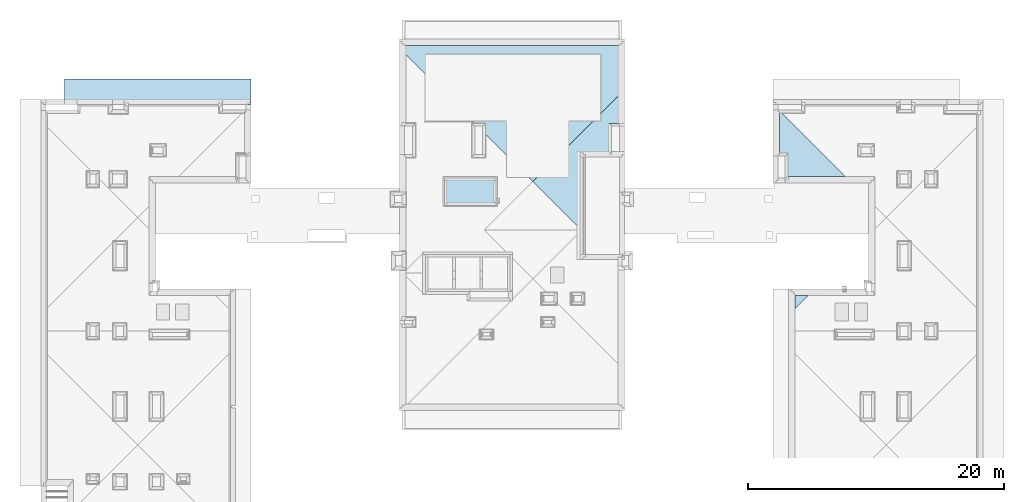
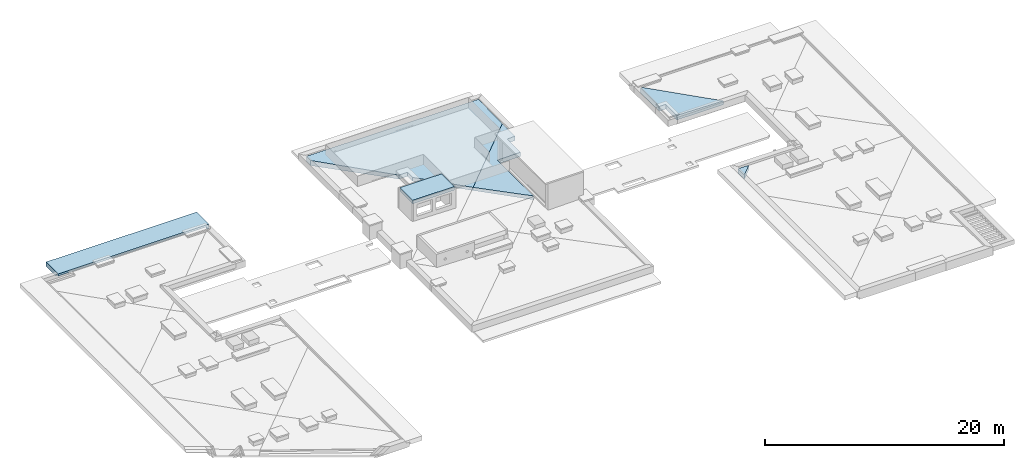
# One storey, part 3 of 16: 6 slabs.
"""IFC2X3 building model written with IfcOpenShell, lengths in millimetres."""

from ifc_helpers import new_model, entity, si_unit, converted_unit, derived_unit, money_unit, direction, frame, origin_with_axes, place, context, subcontext, project, spatial, faceted_brep, material, material_list, type_object, element, save


model = new_model("IFC2X3")

# Units and contexts
model_context = context("Model", 3, precision=0.01, world=origin_with_axes(), true_north=direction((0.34421633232, 0.938890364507)))
body_context = subcontext(model_context, "Body", "Model", "MODEL_VIEW")
ifc_project = project(units=[si_unit("LENGTHUNIT", "METRE", prefix="MILLI"), si_unit("AREAUNIT", "SQUARE_METRE"), si_unit("VOLUMEUNIT", "CUBIC_METRE"), converted_unit("PLANEANGLEUNIT", "DEGREE", entity("IfcPlaneAngleMeasure", 0.0174532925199), si_unit("PLANEANGLEUNIT", "RADIAN"), dimensions=[0, 0, 0, 0, 0, 0, 0]), si_unit("SOLIDANGLEUNIT", "STERADIAN"), money_unit("USD"), converted_unit("TIMEUNIT", "Year", entity("IfcTimeMeasure", 31556926.0), si_unit("TIMEUNIT", "SECOND"), dimensions=[0, 0, 1, 0, 0, 0, 0]), si_unit("MASSUNIT", "GRAM", prefix="KILO"), si_unit("THERMODYNAMICTEMPERATUREUNIT", "DEGREE_CELSIUS"), si_unit("LUMINOUSINTENSITYUNIT", "LUMEN"), si_unit("ENERGYUNIT", "JOULE", prefix="MEGA"), derived_unit("THERMALCONDUCTANCEUNIT", [(si_unit("POWERUNIT", "WATT"), 1), (si_unit("LENGTHUNIT", "METRE"), -1), (si_unit("THERMODYNAMICTEMPERATUREUNIT", "KELVIN"), -1)]), derived_unit("SPECIFICHEATCAPACITYUNIT", [(si_unit("ENERGYUNIT", "JOULE"), 1), (si_unit("MASSUNIT", "GRAM", prefix="KILO"), -1), (si_unit("THERMODYNAMICTEMPERATUREUNIT", "KELVIN"), -1)]), derived_unit("MASSDENSITYUNIT", [(si_unit("MASSUNIT", "GRAM", prefix="KILO"), 1), (si_unit("VOLUMEUNIT", "CUBIC_METRE"), -1)])], contexts=[model_context])

# Site, building, storey
site_placement = place(None, origin_with_axes())
site = spatial("IfcSite", under=ifc_project, at=site_placement, Name="USTRONIE MORSKIE", CompositionType="ELEMENT")
building_placement = place(site_placement, origin_with_axes())
building = spatial("IfcBuilding", under=site, at=building_placement, Name="Budynek", CompositionType="ELEMENT")
storey_placement = place(building_placement, frame((0.0, 0.0, 19000.0), z_axis=(0.0, 0.0, 1.0), x_axis=(1.0, 0.0, 0.0)))
storey = spatial("IfcBuildingStorey", under=building, at=storey_placement, Name="DACH", CompositionType="ELEMENT", Elevation=19000.0)

# Slabs
ifc_material_1 = material(Name="Okładzina kamienna")
ifc_material_2 = material(Name="Żwir")
ifc_material_3 = material(Name="Membrana hydroizolacyjna")
ifc_material_4 = material(Name="Termoizolacja PIR")
ifc_material_list_1 = material_list([ifc_material_1, ifc_material_2, ifc_material_3, ifc_material_4, ifc_material_4])
slab_type_1 = type_object("IfcSlabType", Name="509-PS STROP DACH BALAST 560", PredefinedType="ROOF")
slab_1_placement = place(storey_placement, frame((417097.921014, 729691.199019, -400.0), z_axis=(0.0, 0.0, 1.0), x_axis=(0.0, -1.0, 0.0)))
element("IfcSlab", 1, at=slab_1_placement, inside=storey, type_object=slab_type_1, material=ifc_material_list_1, Name="DA3", PredefinedType="ROOF", context=body_context, shape_type="Brep", body=[
    faceted_brep([(-20.0, -7140.00009505, 702.911990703), (1030.00002094, -7140.00009505, 702.911990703), (-20.0, -6090.0000741, 681.911990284), (-20.0000000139, -7140.00009506, 682.907991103), (1030.00002094, -7140.00009506, 682.907991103), (-20.0000000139, -6090.00007411, 661.907990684)], [[[0, 1, 2]], [[0, 3, 4, 1]], [[1, 4, 5, 2]], [[2, 5, 3, 0]], [[3, 5, 4]]]),
    faceted_brep([(-20.0000000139, -6090.00007411, 661.907990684), (-20.0000000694, -6090.00007416, 581.891992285), (-20.0000000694, -7140.00009512, 602.891992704), (-20.0000000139, -7140.00009506, 682.907991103), (1030.00002094, -7140.00009506, 682.907991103), (1030.00002093, -7140.00009512, 602.891992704)], [[[0, 1, 2, 3]], [[4, 5, 1, 0]], [[2, 1, 5]], [[3, 2, 5, 4]], [[3, 4, 0]]]),
    faceted_brep([(-20.0000000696, -6090.00007416, 581.891992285), (-20.0000000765, -6090.00007417, 571.889992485), (-20.0000000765, -7140.00009512, 592.889992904), (-20.0000000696, -7140.00009512, 602.891992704), (1030.00002093, -7140.00009512, 602.891992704), (1030.00002092, -7140.00009512, 592.889992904)], [[[0, 1, 2, 3]], [[4, 5, 1, 0]], [[2, 1, 5]], [[3, 2, 5, 4]], [[3, 4, 0]]]),
    faceted_brep([(-20.0000000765, -6090.00007417, 571.889992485), (-20.0000001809, -6090.00007425, 421.859995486), (-20.0000001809, -7140.00009523, 442.859995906), (-20.0000000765, -7140.00009512, 592.889992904), (1030.00002092, -7140.00009512, 592.889992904), (1030.0000209, -7140.00009523, 442.859995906)], [[[0, 1, 2, 3]], [[4, 5, 1, 0]], [[2, 1, 5]], [[3, 2, 5, 4]], [[3, 4, 0]]]),
    faceted_brep([(1030.00002086, -7140.00009536, 245.0), (-20.0000003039, -6090.00007436, 245.0), (-20.0000001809, -6090.00007425, 421.859995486), (1030.0000209, -7140.00009523, 442.859995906), (-20.0000003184, -7140.00009536, 245.0), (-20.0000001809, -7140.00009523, 442.859995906)], [[[0, 1, 2, 3]], [[4, 1, 0]], [[1, 4, 5, 2]], [[2, 5, 3]], [[4, 0, 3, 5]]]),
])
slab_2_placement = place(storey_placement, frame((417097.921055, 740261.199341, -400.0), z_axis=(0.0, 0.0, 1.0), x_axis=(-5.50528511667e-09, -1.0, 0.0)))
element("IfcSlab", 2, at=slab_2_placement, inside=storey, type_object=slab_type_1, material=ifc_material_list_1, Name="DA3", PredefinedType="ROOF", context=body_context, shape_type="Brep", body=[
    faceted_brep([(-3709.99956888, -8340.00001403, 726.911989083), (-589.980123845, -8340.00016241, 726.91199205), (-589.980083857, -7700.00014914, 714.111991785), (1270.00034738, -7700.00000337, 714.11198887), (1270.00032255, -3189.99760422, 623.911940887), (-3709.99956982, -8169.99755142, 723.511939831), (-3709.9995689, -8340.00001403, 706.907989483), (-589.980123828, -8340.00016243, 706.907992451), (-589.980083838, -7700.00014915, 694.107992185), (1270.00034738, -7700.00000337, 694.10798927), (1270.00032254, -3189.99760422, 603.907941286), (-3709.99956983, -8169.99755142, 703.507940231)], [[[0, 1, 2, 3, 4, 5]], [[0, 6, 7, 1]], [[1, 7, 8, 2]], [[2, 8, 9, 3]], [[3, 9, 10, 4]], [[4, 10, 11, 5]], [[5, 11, 6, 0]], [[6, 11, 10, 9, 8, 7]]]),
    faceted_brep([(-3709.99956983, -8169.99755142, 703.507940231), (-3709.9995699, -8169.99755146, 623.491941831), (-3709.99956896, -8340.000014, 626.891991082), (-3709.9995689, -8340.00001403, 706.907989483), (1270.00032254, -3189.99760422, 603.907941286), (1270.00032248, -3189.99760421, 523.891942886), (1270.00034736, -7700.00000334, 614.091990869), (-589.980083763, -7700.00014918, 614.091993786), (-589.980123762, -8340.00016248, 626.891994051), (-589.980123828, -8340.00016243, 706.907992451), (-589.980083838, -7700.00014915, 694.107992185), (1270.00034738, -7700.00000337, 694.10798927)], [[[0, 1, 2, 3]], [[4, 5, 1, 0]], [[2, 1, 5, 6, 7, 8]], [[3, 2, 8, 9]], [[3, 9, 10, 11, 4, 0]], [[11, 6, 5, 4]], [[10, 7, 6, 11]], [[9, 8, 7, 10]]]),
    faceted_brep([(-3709.9995699, -8169.99755146, 623.491941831), (-3709.99956991, -8169.99755146, 613.489942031), (-3709.99956897, -8340.00001399, 616.889991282), (-3709.99956896, -8340.000014, 626.891991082), (1270.00032248, -3189.99760421, 523.891942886), (1270.00032247, -3189.99760421, 513.889943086), (1270.00034736, -7700.00000334, 604.089991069), (-589.980083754, -7700.00014919, 604.089993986), (-589.980123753, -8340.00016249, 616.889994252), (-589.980123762, -8340.00016248, 626.891994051), (-589.980083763, -7700.00014918, 614.091993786), (1270.00034736, -7700.00000334, 614.091990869)], [[[0, 1, 2, 3]], [[4, 5, 1, 0]], [[2, 1, 5, 6, 7, 8]], [[3, 2, 8, 9]], [[3, 9, 10, 11, 4, 0]], [[11, 6, 5, 4]], [[10, 7, 6, 11]], [[9, 8, 7, 10]]]),
    faceted_brep([(-3709.99956991, -8169.99755146, 613.489942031), (-3709.99957003, -8169.99755152, 463.459945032), (-3709.99956909, -8340.00001393, 466.85999428), (-3709.99956897, -8340.00001399, 616.889991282), (1270.00032247, -3189.99760421, 513.889943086), (1270.00032236, -3189.99760421, 363.859946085), (1270.00034734, -7700.00000328, 454.059994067), (-589.980083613, -7700.00014925, 454.059996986), (-589.980123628, -8340.00016259, 466.859997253), (-589.980123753, -8340.00016249, 616.889994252), (-589.980083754, -7700.00014919, 604.089993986), (1270.00034736, -7700.00000334, 604.089991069)], [[[0, 1, 2, 3]], [[4, 5, 1, 0]], [[2, 1, 5, 6, 7, 8]], [[3, 2, 8, 9]], [[3, 9, 10, 11, 4, 0]], [[11, 6, 5, 4]], [[10, 7, 6, 11]], [[9, 8, 7, 10]]]),
    faceted_brep([(1270.00034731, -7700.00000321, 245.0), (1270.00032228, -3189.9976042, 245.0), (1270.00032236, -3189.99760421, 363.859946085), (1270.00034734, -7700.00000328, 454.059994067), (-3709.9995702, -8169.9975516, 245.0), (-589.980083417, -7700.00014933, 245.0), (-589.980123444, -8340.00016275, 245.0), (-3709.99956927, -8340.00001385, 245.0), (-3709.99957003, -8169.99755152, 463.459945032), (-3709.99956909, -8340.00001393, 466.85999428), (-589.980123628, -8340.00016259, 466.859997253), (-589.980083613, -7700.00014925, 454.059996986)], [[[0, 1, 2, 3]], [[4, 1, 0, 5, 6, 7]], [[1, 4, 8, 2]], [[8, 9, 10, 11, 3, 2]], [[5, 0, 3, 11]], [[6, 5, 11, 10]], [[7, 6, 10, 9]], [[4, 7, 9, 8]]]),
])
slab_3_placement = place(storey_placement, frame((396207.920919, 738611.198919, -400.0), z_axis=(0.0, 0.0, 1.0), x_axis=(-1.0, 0.0, 0.0)))
element("IfcSlab", 3, at=slab_3_placement, inside=storey, type_object=slab_type_1, material=ifc_material_list_1, Name="DA3", PredefinedType="ROOF", context=body_context, shape_type="Brep", body=[
    faceted_brep([(16710.0, -10660.0001542, 773.311991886), (16710.0, -9959.99979179, 759.311984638), (11300.0002384, -4550.00003021, 651.111989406), (10469.9965926, -4550.00003021, 651.111989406), (10469.9965926, -3719.99638439, 634.51191649), (6750.00011444, 9.37683353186e-05, 560.111986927), (70.0000000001, -6679.99977272, 693.711984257), (70.0000000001, -10660.0001542, 773.311991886), (16710.0, -10660.0001542, 753.307992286), (16710.0, -9959.9997918, 739.307985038), (11300.0002384, -4550.00003019, 631.107989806), (10469.9965926, -4550.00003019, 631.107989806), (10469.9965926, -3719.99638439, 614.50791689), (6750.00011446, 9.37570803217e-05, 540.107987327), (69.9999999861, -6679.99977271, 673.707984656), (69.9999999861, -10660.0001542, 753.307992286)], [[[0, 1, 2, 3, 4, 5, 6, 7]], [[0, 8, 9, 1]], [[1, 9, 10, 2]], [[2, 10, 11, 3]], [[3, 11, 12, 4]], [[4, 12, 13, 5]], [[5, 13, 14, 6]], [[6, 14, 15, 7]], [[7, 15, 8, 0]], [[8, 15, 14, 13, 12, 11, 10, 9]]]),
    faceted_brep([(69.9999999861, -10660.0001542, 753.307992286), (69.9999999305, -10660.0001543, 673.291993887), (16710.0, -10660.0001543, 673.291993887), (16710.0, -10660.0001542, 753.307992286), (69.9999999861, -6679.99977271, 673.707984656), (69.9999999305, -6679.99977269, 593.691986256), (6750.00011452, 9.37118329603e-05, 460.091988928), (10469.9965925, -3719.99638442, 534.49191849), (10469.9965925, -4550.00003013, 551.091991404), (11300.0002384, -4550.00003013, 551.091991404), (16710.0, -9959.99979183, 659.291986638), (16710.0, -9959.9997918, 739.307985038), (11300.0002384, -4550.00003019, 631.107989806), (10469.9965926, -4550.00003019, 631.107989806), (10469.9965926, -3719.99638439, 614.50791689), (6750.00011446, 9.37570803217e-05, 540.107987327)], [[[0, 1, 2, 3]], [[4, 5, 1, 0]], [[2, 1, 5, 6, 7, 8, 9, 10]], [[3, 2, 10, 11]], [[3, 11, 12, 13, 14, 15, 4, 0]], [[15, 6, 5, 4]], [[14, 7, 6, 15]], [[13, 8, 7, 14]], [[12, 9, 8, 13]], [[11, 10, 9, 12]]]),
    faceted_brep([(69.9999999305, -10660.0001543, 673.291993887), (69.9999999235, -10660.0001543, 663.289994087), (16710.0, -10660.0001543, 663.289994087), (16710.0, -10660.0001543, 673.291993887), (69.9999999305, -6679.99977269, 593.691986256), (69.9999999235, -6679.99977269, 583.689986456), (6750.00011453, 9.37061486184e-05, 450.089989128), (10469.9965925, -3719.99638443, 524.48991869), (10469.9965925, -4550.00003012, 541.089991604), (11300.0002384, -4550.00003012, 541.089991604), (16710.0, -9959.99979184, 649.289986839), (16710.0, -9959.99979183, 659.291986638), (11300.0002384, -4550.00003013, 551.091991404), (10469.9965925, -4550.00003013, 551.091991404), (10469.9965925, -3719.99638442, 534.49191849), (6750.00011452, 9.37118329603e-05, 460.091988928)], [[[0, 1, 2, 3]], [[4, 5, 1, 0]], [[2, 1, 5, 6, 7, 8, 9, 10]], [[3, 2, 10, 11]], [[3, 11, 12, 13, 14, 15, 4, 0]], [[15, 6, 5, 4]], [[14, 7, 6, 15]], [[13, 8, 7, 14]], [[12, 9, 8, 13]], [[11, 10, 9, 12]]]),
    faceted_brep([(69.9999999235, -10660.0001543, 663.289994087), (69.9999998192, -10660.0001544, 513.259997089), (16710.0000001, -10660.0001544, 513.259997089), (16710.0, -10660.0001543, 663.289994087), (69.9999999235, -6679.99977269, 583.689986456), (69.9999998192, -6679.99977265, 433.659989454), (6750.00011465, 9.36214519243e-05, 300.059992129), (10469.9965924, -3719.99638448, 374.459921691), (10469.9965924, -4550.00003001, 391.059994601), (11300.0002384, -4550.00003001, 391.059994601), (16710.0000001, -9959.9997919, 499.259989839), (16710.0, -9959.99979184, 649.289986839), (11300.0002384, -4550.00003012, 541.089991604), (10469.9965925, -4550.00003012, 541.089991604), (10469.9965925, -3719.99638443, 524.48991869), (6750.00011453, 9.37061486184e-05, 450.089989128)], [[[0, 1, 2, 3]], [[4, 5, 1, 0]], [[2, 1, 5, 6, 7, 8, 9, 10]], [[3, 2, 10, 11]], [[3, 11, 12, 13, 14, 15, 4, 0]], [[15, 6, 5, 4]], [[14, 7, 6, 15]], [[13, 8, 7, 14]], [[12, 9, 8, 13]], [[11, 10, 9, 12]]]),
    faceted_brep([(69.999999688, -6679.99977261, 245.0), (69.9999996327, -10660.0001546, 245.0), (69.9999998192, -10660.0001544, 513.259997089), (69.9999998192, -6679.99977265, 433.659989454), (16710.0000002, -10660.0001546, 245.0), (6750.00011469, 9.35903017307e-05, 245.0), (10469.9965924, -3719.99638453, 245.0), (10469.9965924, -4550.00002989, 245.0), (11300.0002385, -4550.00002989, 245.0), (16710.0000002, -9959.999792, 245.0), (16710.0000001, -10660.0001544, 513.259997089), (16710.0000001, -9959.9997919, 499.259989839), (11300.0002384, -4550.00003001, 391.059994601), (10469.9965924, -4550.00003001, 391.059994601), (10469.9965924, -3719.99638448, 374.459921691), (6750.00011465, 9.36214519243e-05, 300.059992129)], [[[0, 1, 2, 3]], [[4, 1, 0, 5, 6, 7, 8, 9]], [[1, 4, 10, 2]], [[2, 10, 11, 12, 13, 14, 15, 3]], [[5, 0, 3, 15]], [[6, 5, 15, 14]], [[7, 6, 14, 13]], [[8, 7, 13, 12]], [[9, 8, 12, 11]], [[4, 9, 11, 10]]]),
])
slab_4_placement = place(storey_placement, frame((389457.920971, 729256.318697, -400.0), z_axis=(0.0, 0.0, 1.0), x_axis=(5.50521486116e-09, 1.0, 0.0)))
element("IfcSlab", 4, at=slab_4_placement, inside=storey, type_object=slab_type_1, material=ifc_material_list_1, Name="DA3", PredefinedType="ROOF", context=body_context, shape_type="Brep", body=[
    faceted_brep([(11684.8803599, -3709.99985552, 634.311985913), (11684.8803722, -5939.98878226, 678.911764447), (13905.1579354, -5939.98877004, 678.911764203), (13905.1579395, -6679.99987184, 693.711986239), (16034.8801917, -6679.99986012, 693.711986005), (9354.88021624, 4.1838575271e-05, 560.111987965), (5644.88032648, -3709.99988877, 634.311986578), (11684.8803599, -3709.99985552, 614.307986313), (11684.8803722, -5939.98878225, 658.907764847), (13905.1579354, -5939.98877003, 658.907764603), (13905.1579395, -6679.99987185, 673.707986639), (16034.8801917, -6679.99986012, 673.707986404), (9354.88021623, 4.18489776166e-05, 540.107988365), (5644.88032646, -3709.99988878, 614.307986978)], [[[0, 1, 2, 3, 4, 5, 6]], [[0, 7, 8, 1]], [[1, 8, 9, 2]], [[2, 9, 10, 3]], [[3, 10, 11, 4]], [[4, 11, 12, 5]], [[5, 12, 13, 6]], [[6, 13, 7, 0]], [[7, 13, 12, 11, 10, 9, 8]]]),
    faceted_brep([(5644.88032646, -3709.99988878, 614.307986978), (5644.8803264, -3709.99988883, 534.291988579), (11684.8803599, -3709.99985553, 534.291987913), (11684.8803599, -3709.99985552, 614.307986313), (9354.88021623, 4.18489776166e-05, 540.107988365), (9354.88021622, 4.18907006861e-05, 460.091989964), (16034.8801917, -6679.99986012, 593.691988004), (13905.1579394, -6679.99987191, 593.69198824), (13905.1579354, -5939.98877002, 578.891766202), (11684.8803721, -5939.98878223, 578.891766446), (11684.8803722, -5939.98878225, 658.907764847), (13905.1579354, -5939.98877003, 658.907764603), (13905.1579395, -6679.99987185, 673.707986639), (16034.8801917, -6679.99986012, 673.707986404)], [[[0, 1, 2, 3]], [[4, 5, 1, 0]], [[2, 1, 5, 6, 7, 8, 9]], [[3, 2, 9, 10]], [[3, 10, 11, 12, 13, 4, 0]], [[13, 6, 5, 4]], [[12, 7, 6, 13]], [[11, 8, 7, 12]], [[10, 9, 8, 11]]]),
    faceted_brep([(5644.8803264, -3709.99988883, 534.291988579), (5644.8803264, -3709.99988884, 524.289988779), (11684.8803599, -3709.99985554, 524.289988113), (11684.8803599, -3709.99985553, 534.291987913), (9354.88021622, 4.18907006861e-05, 460.091989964), (9354.88021621, 4.18959302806e-05, 450.089990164), (16034.8801917, -6679.99986012, 583.689988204), (13905.1579394, -6679.99987192, 583.68998844), (13905.1579354, -5939.98877002, 568.889766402), (11684.8803721, -5939.98878222, 568.889766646), (11684.8803721, -5939.98878223, 578.891766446), (13905.1579354, -5939.98877002, 578.891766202), (13905.1579394, -6679.99987191, 593.69198824), (16034.8801917, -6679.99986012, 593.691988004)], [[[0, 1, 2, 3]], [[4, 5, 1, 0]], [[2, 1, 5, 6, 7, 8, 9]], [[3, 2, 9, 10]], [[3, 10, 11, 12, 13, 4, 0]], [[13, 6, 5, 4]], [[12, 7, 6, 13]], [[11, 8, 7, 12]], [[10, 9, 8, 11]]]),
    faceted_brep([(5644.8803264, -3709.99988884, 524.289988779), (5644.88032628, -3709.99988894, 374.25999178), (11684.8803598, -3709.99985556, 374.259991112), (11684.8803599, -3709.99985554, 524.289988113), (9354.88021621, 4.18959302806e-05, 450.089990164), (9354.88021618, 4.19741468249e-05, 300.059993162), (16034.8801917, -6679.99986012, 433.659991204), (13905.1579393, -6679.99987202, 433.659991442), (13905.1579354, -5939.98877001, 418.859769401), (11684.880372, -5939.98878218, 418.859769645), (11684.8803721, -5939.98878222, 568.889766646), (13905.1579354, -5939.98877002, 568.889766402), (13905.1579394, -6679.99987192, 583.68998844), (16034.8801917, -6679.99986012, 583.689988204)], [[[0, 1, 2, 3]], [[4, 5, 1, 0]], [[2, 1, 5, 6, 7, 8, 9]], [[3, 2, 9, 10]], [[3, 10, 11, 12, 13, 4, 0]], [[13, 6, 5, 4]], [[12, 7, 6, 13]], [[11, 8, 7, 12]], [[10, 9, 8, 11]]]),
    faceted_brep([(13905.1579392, -6679.99987215, 245.0), (16034.8801916, -6679.99986012, 245.0), (16034.8801917, -6679.99986012, 433.659991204), (13905.1579393, -6679.99987202, 433.659991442), (9354.88021617, 4.20028527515e-05, 245.0), (13905.1579354, -5939.98876999, 245.0), (11684.8803718, -5939.98878212, 245.0), (11684.8803597, -3709.99985558, 245.0), (5644.88032619, -3709.99988902, 245.0), (9354.88021618, 4.19741468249e-05, 300.059993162), (5644.88032628, -3709.99988894, 374.25999178), (11684.8803598, -3709.99985556, 374.259991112), (11684.880372, -5939.98878218, 418.859769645), (13905.1579354, -5939.98877001, 418.859769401)], [[[0, 1, 2, 3]], [[4, 1, 0, 5, 6, 7, 8]], [[1, 4, 9, 2]], [[10, 11, 12, 13, 3, 2, 9]], [[5, 0, 3, 13]], [[6, 5, 13, 12]], [[7, 6, 12, 11]], [[8, 7, 11, 10]], [[4, 8, 10, 9]]]),
])
ifc_material_5 = material(Name="Membrana przeciwwilgociowa")
ifc_material_6 = material(Name="Beton konstrukcyjny B25")
ifc_material_7 = material(Name="Pustka powietrzna")
ifc_material_8 = material(Name="Laminat")
ifc_material_list_2 = material_list([ifc_material_5, ifc_material_6, ifc_material_7, ifc_material_8])
slab_type_2 = type_object("IfcSlabType", Name="Balkony na HALFENACH SuperFAT 450", PredefinedType="FLOOR")
slab_5_placement = place(storey_placement, frame((352787.920919, 746651.198929, 500.0), z_axis=(0.0, 0.0, 1.0), x_axis=(1.0, 0.0, 0.0)))
element("IfcSlab", 5, at=slab_5_placement, inside=storey, type_object=slab_type_2, material=ifc_material_list_2, Name="P3", PredefinedType="FLOOR", context=body_context, shape_type="Brep", body=[
    faceted_brep([(0.0, 0.0, -10.0), (0.0, -2029.99989331, -10.0), (0.0, -2029.99989331, 0.0), (0.0, 0.0, 0.0), (14590.0, 0.0, -10.0), (14590.0, -2029.99989331, -10.0), (14590.0, -2029.99989331, 0.0), (14590.0, 0.0, 0.0)], [[[0, 1, 2, 3]], [[1, 0, 4, 5]], [[1, 5, 6, 2]], [[7, 3, 2, 6]], [[4, 0, 3, 7]], [[5, 4, 7, 6]]]),
    faceted_brep([(0.0, -2029.99989331, -210.0), (0.0, -2029.99989331, -10.0), (0.0, 0.0, -10.0), (0.0, 0.0, -210.0), (14590.0, -2029.99989331, -210.0), (14590.0, -2029.99989331, -10.0), (14590.0, 0.0, -10.0), (14590.0, 0.0, -210.0)], [[[0, 1, 2, 3]], [[4, 5, 1, 0]], [[2, 1, 5, 6]], [[3, 2, 6, 7]], [[3, 7, 4, 0]], [[7, 6, 5, 4]]]),
    faceted_brep([(14590.0, -1649.99989331, -430.0), (14590.0, -1649.99989331, -210.0), (14590.0, -2029.99989331, -210.0), (14590.0, -2029.99989331, -430.0), (14580.0, -1649.99989331, -210.0), (14580.0, -1649.99989331, -430.0), (14580.0, -1849.99989331, -210.0), (14380.0, -1849.99989331, -210.0), (14380.0, -2029.99989331, -210.0), (14380.0, -2029.99989331, -430.0), (14380.0, -1849.99989331, -430.0), (14580.0, -1849.99989331, -430.0)], [[[0, 1, 2, 3]], [[4, 1, 0, 5]], [[1, 4, 6, 7, 8, 2]], [[8, 9, 3, 2]], [[5, 0, 3, 9, 10, 11]], [[4, 5, 11, 6]], [[7, 6, 11, 10]], [[7, 10, 9, 8]]]),
    faceted_brep([(14590.0, -1639.99989331, -210.0), (14590.0, 0.0, -210.0), (0.0, 0.0, -210.0), (0.0, -1639.99989331, -210.0), (14590.0, -1639.99989331, -430.0), (14590.0, 0.0, -430.0), (0.0, 0.0, -430.0), (0.0, -1639.99989331, -430.0)], [[[0, 1, 2, 3]], [[0, 4, 5, 1]], [[5, 6, 2, 1]], [[7, 3, 2, 6]], [[7, 4, 0, 3]], [[7, 6, 5, 4]]]),
    faceted_brep([(14590.0, -1649.99989331, -450.0), (14590.0, -1649.99989331, -430.0), (14590.0, -2029.99989331, -430.0), (14590.0, -2029.99989331, -450.0), (14580.0, -1649.99989331, -430.0), (14580.0, -1649.99989331, -449.999999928), (14580.0, -1849.99989331, -430.0), (14380.0, -1849.99989331, -430.0), (14380.0, -2029.99989331, -430.0), (14380.0, -2029.99989331, -450.0), (14380.0, -1849.99989331, -449.999998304), (14580.0, -1849.99989331, -450.0)], [[[0, 1, 2, 3]], [[4, 1, 0, 5]], [[1, 4, 6, 7, 8, 2]], [[8, 9, 3, 2]], [[5, 0, 3, 9, 10, 11]], [[4, 5, 11, 6]], [[7, 6, 11, 10]], [[7, 10, 9, 8]]]),
    faceted_brep([(14590.0, -1639.99989331, -430.0), (14590.0, 0.0, -430.0), (0.0, 0.0, -430.0), (0.0, -1639.99989331, -430.0), (14590.0, -1639.99989331, -450.0), (14590.0, 0.0, -450.0), (0.0, 0.0, -450.0), (0.0, -1639.99989331, -450.0), (5910.00082976, -1639.99989331, -450.0), (6230.00082976, -1639.99989331, -450.0), (6750.0, -1639.99989331, -450.0), (7070.0, -1639.99989331, -450.0), (14070.0, -1639.99989331, -449.999998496), (14380.0, -1639.99989331, -449.999998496), (330.0, -1639.99989331, -450.0), (980.0, -1639.99989331, -450.0), (1300.0, -1639.99989331, -450.0)], [[[0, 1, 2, 3]], [[0, 4, 5, 1]], [[1, 5, 6, 2]], [[7, 3, 2, 6]], [[8, 9, 10, 11, 12, 13, 4, 0, 3, 7, 14, 15, 16]], [[8, 16, 15, 14, 7, 6, 5, 4, 13, 12, 11, 10, 9]]]),
])
ifc_material_9 = material(Name="Płyty styropianowe twarde")
ifc_material_list_3 = material_list([ifc_material_5, ifc_material_9, ifc_material_5, ifc_material_6])
slab_type_3 = type_object("IfcSlabType", Name="Strop techn. ZEWN. 360", PredefinedType="FLOOR")
slab_6_placement = place(storey_placement, frame((382537.920919, 738901.199038, 2384.98704164), z_axis=(0.0, 0.0, 1.0), x_axis=(1.0, 0.0, 0.0)))
element("IfcSlab", 6, at=slab_6_placement, inside=storey, type_object=slab_type_3, material=ifc_material_list_3, Name="P2", PredefinedType="FLOOR", context=body_context, shape_type="Brep", body=[
    faceted_brep([(0.0, -2150.00000189, -5.0), (0.0, -2150.00000189, 0.0), (0.0, 0.0, 0.0), (0.0, 0.0, -5.0), (4030.0, -2150.00000189, -5.0), (4030.0, -2150.00000189, 0.0), (4030.0, 1.61971911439e-05, 0.0), (4030.0, 1.61971911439e-05, -5.0)], [[[0, 1, 2, 3]], [[4, 5, 1, 0]], [[2, 1, 5, 6]], [[3, 2, 6, 7]], [[3, 7, 4, 0]], [[7, 6, 5, 4]]]),
    faceted_brep([(0.0, -2150.00000189, -155.0), (0.0, -2150.00000189, -5.0), (0.0, 0.0, -5.0), (0.0, 0.0, -155.0), (4030.0, -2150.00000189, -155.0), (4030.0, -2150.00000189, -5.0), (4030.0, 1.61971911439e-05, -5.0), (4030.0, 1.61971911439e-05, -155.0)], [[[0, 1, 2, 3]], [[4, 5, 1, 0]], [[2, 1, 5, 6]], [[3, 2, 6, 7]], [[3, 7, 4, 0]], [[7, 6, 5, 4]]]),
    faceted_brep([(0.0, 0.0, -160.0), (0.0, -2150.00000189, -160.0), (0.0, -2150.00000189, -155.0), (0.0, 0.0, -155.0), (4030.0, 1.61971911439e-05, -160.0), (4030.0, -2150.00000189, -160.0), (4030.0, -2150.00000189, -155.0), (4030.0, 1.61971911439e-05, -155.0)], [[[0, 1, 2, 3]], [[1, 0, 4, 5]], [[1, 5, 6, 2]], [[7, 3, 2, 6]], [[4, 0, 3, 7]], [[5, 4, 7, 6]]]),
    faceted_brep([(0.0, 0.0, -160.0), (0.0, 0.0, -360.0), (0.0, -2150.00000189, -360.0), (0.0, -2150.00000189, -160.0), (4030.0, 1.61971911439e-05, -160.0), (4030.0, 1.61971911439e-05, -360.0), (4030.0, -2150.00000189, -360.0), (4030.0, -2150.00000189, -160.0)], [[[0, 1, 2, 3]], [[4, 5, 1, 0]], [[2, 1, 5, 6]], [[3, 2, 6, 7]], [[4, 0, 3, 7]], [[7, 6, 5, 4]]]),
])

save(model, "model.ifc")
